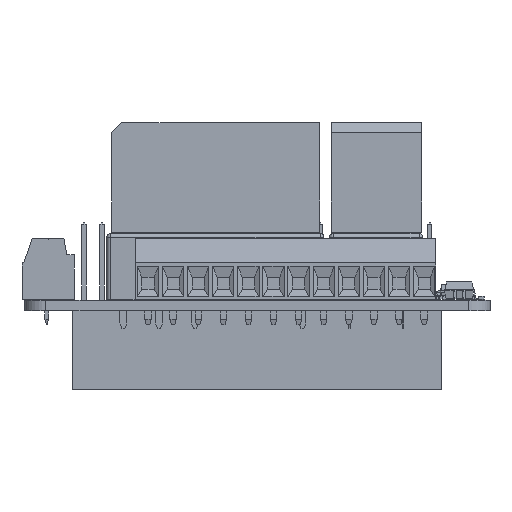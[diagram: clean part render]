
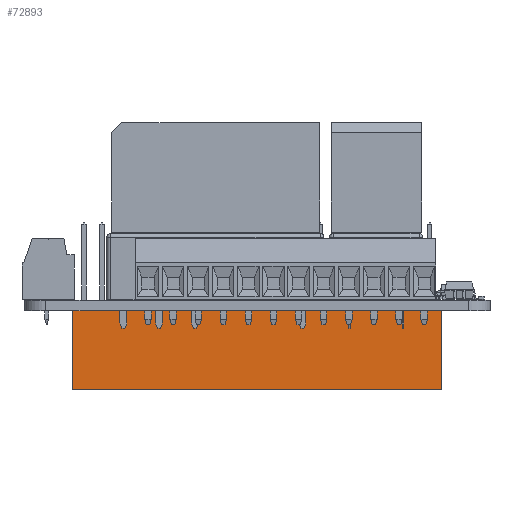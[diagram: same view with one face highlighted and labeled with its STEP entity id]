
A CAD part, front view. The second image highlights one B-rep face of the part: STEP entity #72893.
In plain terms, the highlighted planar face has unit normal (0, -1, 0).
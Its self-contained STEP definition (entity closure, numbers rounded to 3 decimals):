
#71406 = VERTEX_POINT('',#71407);
#71407 = CARTESIAN_POINT('',(6.7,50.02,0.095));
#71413 = EDGE_CURVE('',#71406,#71414,#71416,.T.);
#71414 = VERTEX_POINT('',#71415);
#71415 = CARTESIAN_POINT('',(6.7,50.02,-10.955));
#71416 = LINE('',#71417,#71418);
#71417 = CARTESIAN_POINT('',(6.7,50.02,0.095));
#71418 = VECTOR('',#71419,1.);
#71419 = DIRECTION('',(0.,0.,-1.));
#71490 = EDGE_CURVE('',#71414,#71491,#71493,.T.);
#71491 = VERTEX_POINT('',#71492);
#71492 = CARTESIAN_POINT('',(58.16,50.02,-10.955));
#71493 = LINE('',#71494,#71495);
#71494 = CARTESIAN_POINT('',(6.7,50.02,-10.955));
#71495 = VECTOR('',#71496,1.);
#71496 = DIRECTION('',(1.,0.,0.));
#72893 = ADVANCED_FACE('',(#72894),#72912,.T.);
#72894 = FACE_BOUND('',#72895,.T.);
#72895 = EDGE_LOOP('',(#72896,#72904,#72905,#72906));
#72896 = ORIENTED_EDGE('',*,*,#72897,.F.);
#72897 = EDGE_CURVE('',#71406,#72898,#72900,.T.);
#72898 = VERTEX_POINT('',#72899);
#72899 = CARTESIAN_POINT('',(58.16,50.02,0.095));
#72900 = LINE('',#72901,#72902);
#72901 = CARTESIAN_POINT('',(6.7,50.02,0.095));
#72902 = VECTOR('',#72903,1.);
#72903 = DIRECTION('',(1.,0.,0.));
#72904 = ORIENTED_EDGE('',*,*,#71413,.T.);
#72905 = ORIENTED_EDGE('',*,*,#71490,.T.);
#72906 = ORIENTED_EDGE('',*,*,#72907,.F.);
#72907 = EDGE_CURVE('',#72898,#71491,#72908,.T.);
#72908 = LINE('',#72909,#72910);
#72909 = CARTESIAN_POINT('',(58.16,50.02,0.095));
#72910 = VECTOR('',#72911,1.);
#72911 = DIRECTION('',(0.,0.,-1.));
#72912 = PLANE('',#72913);
#72913 = AXIS2_PLACEMENT_3D('',#72914,#72915,#72916);
#72914 = CARTESIAN_POINT('',(6.7,50.02,0.095));
#72915 = DIRECTION('',(0.,-1.,0.));
#72916 = DIRECTION('',(0.,0.,-1.));
